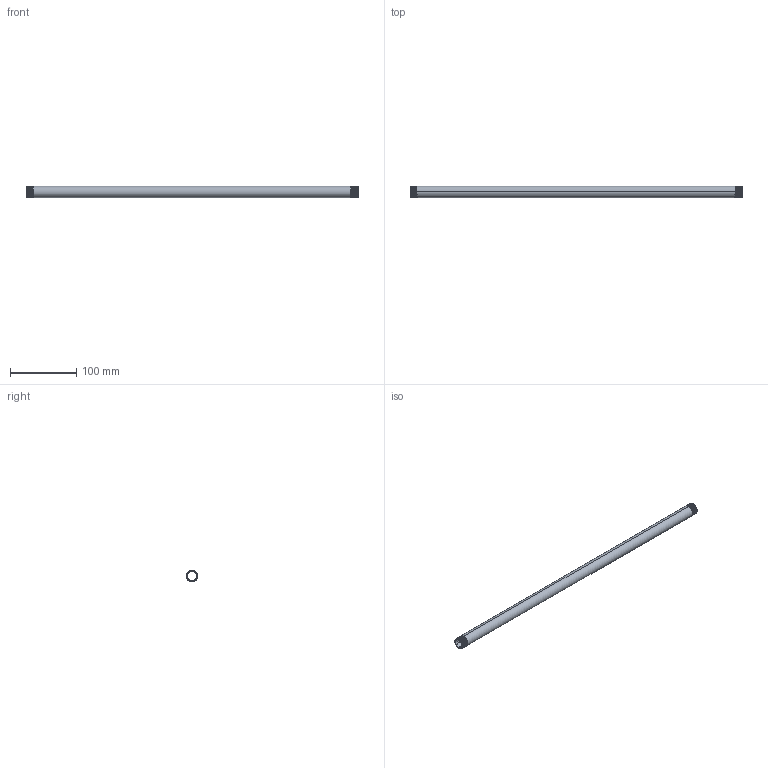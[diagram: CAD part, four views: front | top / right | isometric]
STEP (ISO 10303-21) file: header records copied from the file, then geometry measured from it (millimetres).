
FILE_DESCRIPTION (( 'STEP AP203' ), '1' );
FILE_NAME ('3D_R210_3-8x500_17191510.STEP', '2024-08-16T14:33:39', ( '' ), ( '' ), 'SwSTEP 2.0', 'SolidWorks 2024', '' );
FILE_SCHEMA (( 'CONFIG_CONTROL_DESIGN' ));
Length unit declared in the file: millimetre
Products named in the file (1): 3D_R210_3-8x500_17191510
Bounding box: 500 x 17.18 x 17.2 mm (x, y, z)
Volume: 47241.8 mm3; surface area: 48415.7 mm2
Topology: 1 solids, 1 shells, 52 faces, 144 edges, 94 vertices
Faces by surface type: cone 38, bspline 6, cylinder 4, plane 4
Entity records: 7293 total; most frequent: CARTESIAN_POINT 6071, ORIENTED_EDGE 288, DIRECTION 166, EDGE_CURVE 144, VERTEX_POINT 94, B_SPLINE_CURVE_WITH_KNOTS 76, AXIS2_PLACEMENT_3D 59, EDGE_LOOP 54
